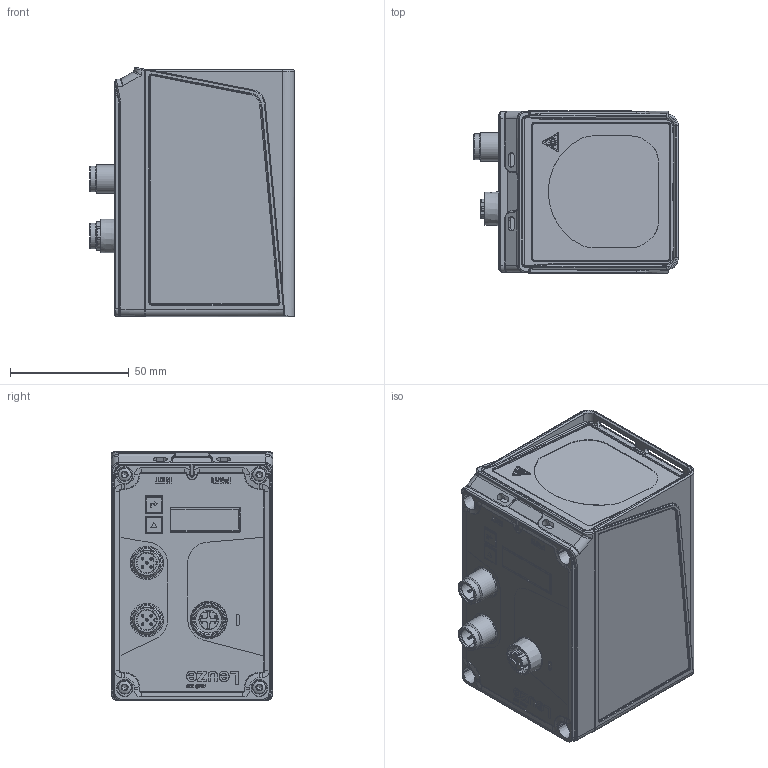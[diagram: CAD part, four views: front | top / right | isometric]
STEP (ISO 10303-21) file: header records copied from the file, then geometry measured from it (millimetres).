
FILE_DESCRIPTION(/* description */ (''),/* implementation_level */ '2;1');
FILE_NAME(/* name */ '3DCAD_AMS100_SSI.stp',/* time_stamp */ '2022-02-03T11:56:41+01:00',/* author */ ('CC2'),/* organization */ ('Leuze electronic'),/* preprocessor_version */ 'ST-DEVELOPER v16',/* originating_system */ 'SIEMENS PLM Software NX 11.0',/* authorisation */ '');
FILE_SCHEMA (('AUTOMOTIVE_DESIGN { 1 0 10303 214 3 1 1 1 }'));
Products named in the file (1): 19-103391_00_1-3DCAD_AMS100_SSI
Bounding box: 86.16 x 68 x 104.8 mm (x, y, z)
Volume: 510566.8 mm3; surface area: 46841.5 mm2
Topology: 1 solids, 12 shells, 1947 faces, 4921 edges, 3043 vertices
Faces by surface type: plane 864, cylinder 409, bspline 362, cone 151, torus 83, extrusion 38, sphere 30, revolution 10
Full cylindrical faces by diameter (mm): 2.5 x4, 2.693 x4, 3.3 x8, 5.6 x4, 8.5 x2, 9.7 x2, 10.8 x2, 11 x1, 12 x2, 12.2 x1
Entity records: 71077 total; most frequent: CARTESIAN_POINT 25368, ORIENTED_EDGE 9460, DIRECTION 8070, EDGE_CURVE 4730, VERTEX_POINT 2998, VECTOR 2698, AXIS2_PLACEMENT_3D 2681, LINE 2660
